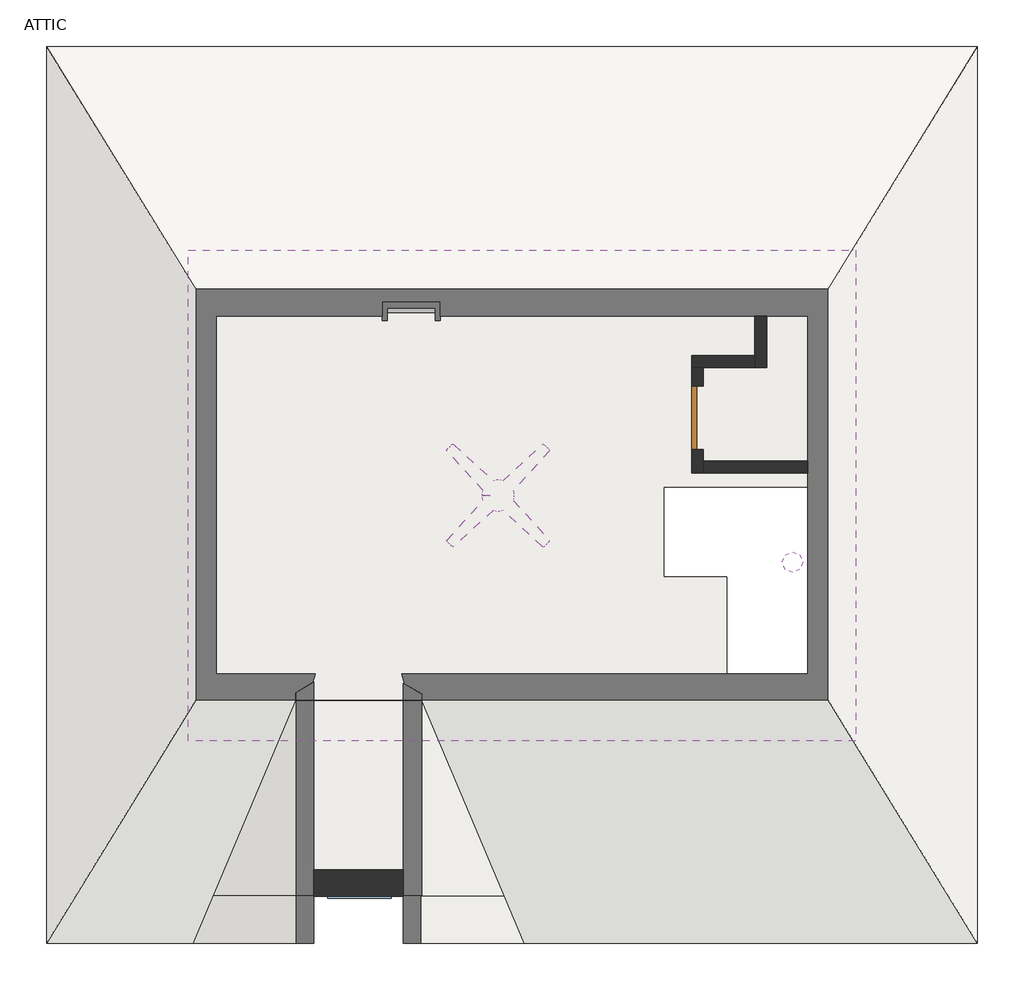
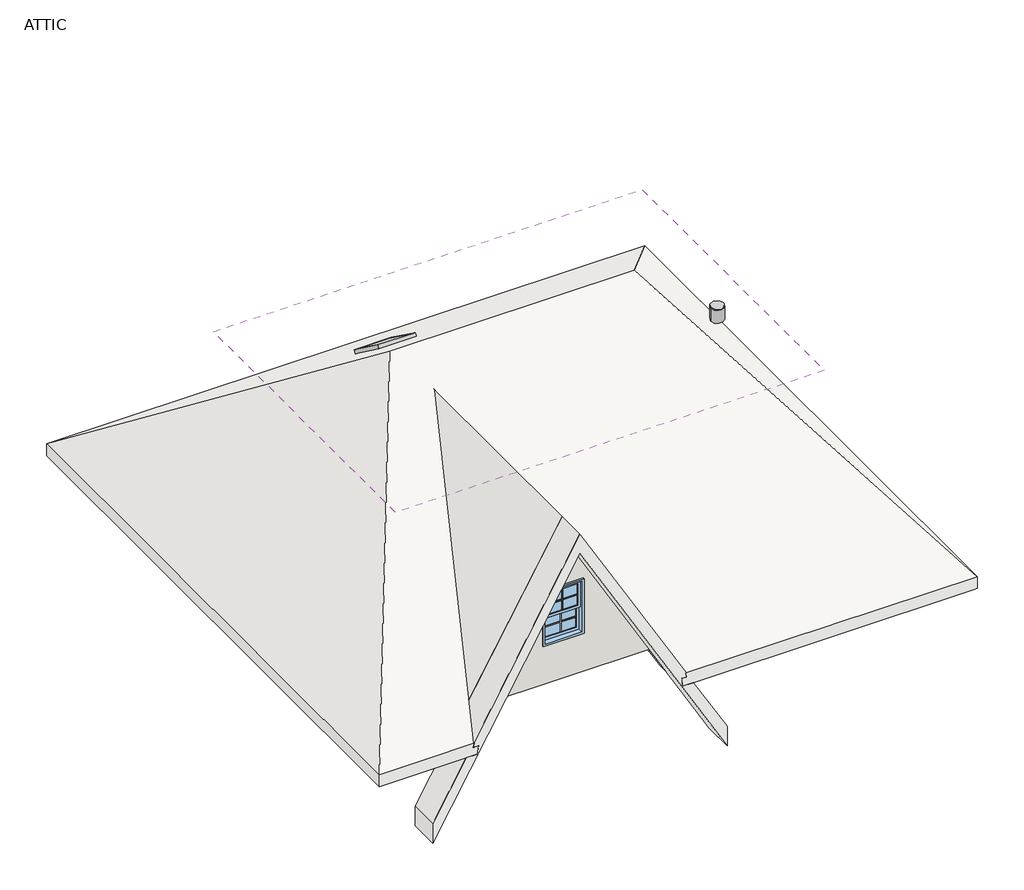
# One storey: 15 walls, 3 proxies, 3 roofs, 2 doors, 2 light fixtures, 1 covering, 1 slab, 1 window.
"""IFC4 building model written with IfcOpenShell, lengths in millimetres."""

from ifc_helpers import new_model, si_unit, point, frame, frame_2d, origin, place, context, project, spatial, polyline, circle_curve, trimmed, segment, composite_curve, outline, extrude, faceted_brep, transform, mapped, element, save
from components import metal_40af2144, muntin_pattern_2x2_muntin_pattern_2x2_3032a0ac, door_caf60923, door_30803731, ceiling_fan_4_278a9ec8, light_fixture_643521e1, window_8db50ffd

model = new_model("IFC4")

# Units and contexts
model_context = context("Model", 3, world=origin())
ifc_project = project(units=[si_unit("LENGTHUNIT", "METRE", prefix="MILLI")], contexts=[model_context])

# Site, building, storey
site = spatial("IfcSite", under=ifc_project)
building = spatial("IfcBuilding", under=site)
storey = spatial("IfcBuildingStorey", under=building, Name="ATTIC", Elevation=5638.8)

# Proxies
placement = place(None, origin())
metal_shape = metal_40af2144(model_context)
element("IfcBuildingElementProxy", 1, Name="Skylite : METAL", ObjectType="Skylite : METAL", at=placement, inside=storey, context=model_context, shape_type="MappedRepresentation", body=[
    mapped(metal_shape, transform((-3009.371808, 1674.1036491, 3767.449627), x_axis=(1.0, 0.0, 0.0), y_axis=(0.0, 0.8072273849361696, -0.5902405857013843), z_axis=(0.0, 0.5902405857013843, 0.8072273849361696))),
])
muntin_pattern_2x2_muntin_pattern_2x2_shape = muntin_pattern_2x2_muntin_pattern_2x2_3032a0ac(model_context)
element("IfcBuildingElementProxy", 2, Name="Muntin Pattern_2x2 : Muntin Pattern_2x2", ObjectType="Muntin Pattern_2x2 : Muntin Pattern_2x2", at=placement, inside=storey, context=model_context, shape_type="MappedRepresentation", body=[
    mapped(muntin_pattern_2x2_muntin_pattern_2x2_shape, transform((-3506.4, -1295.9315521, 6397.625), x_axis=(-1.0, 0.0, 0.0), y_axis=(0.0, -1.0, 0.0), z_axis=(0.0, 0.0, 1.0))),
])
element("IfcBuildingElementProxy", 3, Name="Muntin Pattern_2x2 : Muntin Pattern_2x2", ObjectType="Muntin Pattern_2x2 : Muntin Pattern_2x2", at=placement, inside=storey, context=model_context, shape_type="MappedRepresentation", body=[
    mapped(muntin_pattern_2x2_muntin_pattern_2x2_shape, transform((-3506.4, -1251.4815521, 6019.8), x_axis=(-1.0, 0.0, 0.0), y_axis=(0.0, -1.0, 0.0), z_axis=(0.0, 0.0, 1.0))),
])

# Covering
element("IfcCovering", 4, ObjectType="1/2\" Ceiling", at=placement, inside=storey, context=model_context, shape_type="SweptSolid", body=[
    extrude(outline(polyline([(-5151.05, 4884.55), (1268.8, 4884.55), (1268.8, 162.5), (-5151.05, 162.5), (-5151.05, 4884.55)]), holes=[composite_curve([segment(trimmed(circle_curve(frame_2d((659.2, 1883.35)), 87.3), [point((746.5, 1883.35))], [point((571.9, 1883.35))], True, "CARTESIAN"), True, "CONTINUOUS"), segment(trimmed(circle_curve(frame_2d((659.2, 1883.35)), 87.3), [point((571.9, 1883.35))], [point((746.5, 1883.35))], True, "CARTESIAN"), True, "CONTINUOUS")], self_intersect=False)]), frame((0.0, 0.0, 7620.0), z_axis=(0.0, 0.0, 1.0), x_axis=(1.0, 0.0, 0.0)), (0.0, 0.0, 1.0), 12.7),
])

# Doors
door_shape = door_caf60923(model_context)
element("IfcDoor", 5, ObjectType="Planitar - Single Door_Flush Panel : 1'-6\" x 6'-8\"", at=placement, inside=storey, context=model_context, shape_type="MappedRepresentation", body=[
    mapped(door_shape, transform((-267.9, 418.5, 5638.8), x_axis=(0.0, -1.0, 0.0), y_axis=(1.0, 0.0, 0.0), z_axis=(0.0, 0.0, 1.0))),
])
door_2_shape = door_30803731(model_context)
element("IfcDoor", 6, ObjectType="Planitar - Single Door_Flush Panel : 2'-0\" x 6'-8\"", at=placement, inside=storey, context=model_context, shape_type="MappedRepresentation", body=[
    mapped(door_2_shape, transform((-255.2, 3274.0, 5638.8), x_axis=(0.0, -1.0, 0.0), y_axis=(1.0, 0.0, 0.0), z_axis=(0.0, 0.0, 1.0))),
])

# Light fixtures
ceiling_fan_4_shape = ceiling_fan_4_278a9ec8(model_context)
element("IfcLightFixture", 7, ObjectType="Ceiling Fan : 4'", at=placement, inside=storey, context=model_context, shape_type="MappedRepresentation", body=[
    mapped(ceiling_fan_4_shape, transform((-2172.9, 2524.7, 7620.0), x_axis=(1.0, 0.0, 0.0), y_axis=(0.0, -1.0, 0.0), z_axis=(0.0, 0.0, -1.0))),
])
light_fixture_shape = light_fixture_643521e1(model_context)
element("IfcLightFixture", 8, ObjectType="Recessed Pot Light : 8\" 2", at=placement, inside=storey, context=model_context, shape_type="MappedRepresentation", body=[
    mapped(light_fixture_shape, transform((659.2, 1883.35, 5181.6), x_axis=(1.0, 0.0, 0.0), y_axis=(0.0, 1.0, 0.0), z_axis=(0.0, 0.0, 1.0))),
])

# Roofs
element("IfcRoof", 9, ObjectType="Wood Rafter 184mm - Asphalt Shingles", at=placement, inside=storey, context=model_context, shape_type="Brep", body=[
    faceted_brep([(2396.6732303, 6845.3, 4941.5302575), (-250.6678483, 2530.475, 8096.5084987), (-3828.4321517, 2530.475, 8096.5084987), (-6475.7732303, 6845.3, 4941.5302575), (-3288.771808, 3727.5123582, 7221.2408299), (-2729.971808, 3727.5123582, 7221.2408299), (-2729.971808, 4342.6196255, 6771.4775036), (-3288.771808, 4342.6196255, 6771.4775036), (-6475.7732303, -1784.35, 4941.5302575), (2396.6732303, -1784.35, 4941.5302575), (-1814.5982264, -1784.35, 4941.5302575), (-1978.7973569, -1784.35, 4941.5302575), (-1990.4644278, -1721.9688479, 4987.1430408), (-1919.3884558, -1727.4054781, 4983.1678042), (-2088.3585474, -1327.15, 5275.8325877), (-2007.6077667, -1327.15, 5275.8325877), (-2007.2863077, -1327.15, 5275.8325877), (-2055.1086013, -1213.8687983, 5358.66323), (-2177.034574, -1310.141336, 5288.2692369), (-2206.9128474, -1310.141336, 5288.2692369), (-3514.7860527, 1798.8118989, 7561.5201356), (-4822.659258, -1310.141336, 5288.2692369), (-4934.0332553, -1310.141336, 5288.2692369), (-4941.2135581, -1327.15, 5275.8325877), (-5110.1836496, -1727.4054781, 4983.1678042), (-5027.9029422, -1721.1117931, 4987.7697149), (-5048.8940864, -1784.35, 4941.5302575), (-5215.5080228, -1784.35, 4941.5302575), (2437.2, 6845.3, 5130.3246453), (-6516.3, 6845.3, 5130.3246453), (-3868.9589214, 2530.475, 8285.3028866), (-210.1410786, 2530.475, 8285.3028866), (-2729.971808, 3817.4650235, 7344.2622833), (-3288.771808, 3817.4650235, 7344.2622833), (-3288.771808, 4432.5722908, 6894.498957), (-2729.971808, 4432.5722908, 6894.498957), (-6516.3, -1784.35, 5130.3246453), (2437.2, -1784.35, 5130.3246453), (-5106.5075321, -1784.35, 5130.3246453), (-5096.249077, -1784.35, 5130.3246453), (-4934.0332553, -1400.0940012, 5411.2906903), (-4822.659258, -1400.0940012, 5411.2906903), (-4791.9732047, -1327.15, 5464.6269755), (-4913.2853071, -1327.15, 5464.6269755), (-3514.7860527, 1985.6077944, 7886.8987385), (-2116.2867983, -1327.15, 5464.6269755), (-2116.6082574, -1327.15, 5464.6269755), (-2237.5989007, -1327.15, 5464.6269755), (-2206.9128474, -1400.0940012, 5411.2906903), (-2095.5388501, -1400.0940012, 5411.2906903), (-1933.3230284, -1784.35, 5130.3246453), (-1923.598717, -1784.35, 5130.3246453), (2437.2, 6845.3, 4941.5302575), (-6516.3, 6845.3, 4941.5302575), (-6516.3, -1784.35, 4941.5302575), (-5027.9029422, -1784.35, 5074.2558252), (-5110.1836496, -1784.35, 5061.0465177), (2437.2, -1784.35, 4941.5302575), (-1919.3884558, -1784.35, 5061.0465177), (-1990.4644278, -1784.35, 5072.4570221), (-2207.2569466, -1327.15, 5317.3918943), (-2262.7367658, -1198.0524593, 5413.4857601), (-2208.529394, -1327.15, 5319.595838), (-3514.7860527, 2022.4892217, 7886.8987385), (-2075.274675, -1327.15, 5393.5918943), (-2055.1086013, -1327.15, 5358.66323), (-3545.4688601, 1986.790881, 7833.7545572), (-4944.4675612, -1327.15, 5410.6177272), (-2095.5388501, -1327.15, 5311.5306996), (-2136.7445387, -1327.15, 5311.5306996), (-4817.4924304, -1327.15, 5337.3086013), (-3524.2301982, 1737.3518345, 7598.4564784), (-3542.3190121, 1779.4432006, 7629.787223), (-3520.84154, 1754.0053382, 7592.5871502), (-3514.7860527, 1755.0059573, 7621.430207), (-4822.659258, -1331.2692439, 5317.1642778), (-2206.9128474, -1330.5927686, 5316.2391137), (-4934.0332553, -1327.15, 5311.5306996)], [[[0, 1, 2, 3], [4, 5, 6, 7]], [[3, 2, 8]], [[1, 0, 9]], [[2, 1, 9, 10, 11, 12, 13, 14, 15, 16, 17, 18, 19, 20, 21, 22, 23, 24, 25, 26, 27, 8]], [[28, 29, 30, 31], [32, 33, 34, 35]], [[30, 29, 36]], [[28, 31, 37]], [[31, 30, 36, 38, 39, 40, 41, 42, 43, 44, 45, 46, 47, 48, 49, 50, 51, 37]], [[29, 28, 52, 0, 3, 53]], [[36, 29, 53, 54]], [[36, 54, 8, 27, 26, 55, 56, 39, 38]], [[57, 37, 51, 50, 58, 59, 11, 10, 9]], [[28, 37, 57, 52]], [[9, 0, 52, 57]], [[3, 8, 54, 53]], [[60, 61, 62]], [[63, 64, 45, 44]], [[65, 17, 16]], [[66, 63, 44, 43, 67]], [[65, 16, 15, 14, 68, 69]], [[64, 60, 62, 47, 46, 45]], [[67, 43, 42, 70]], [[71, 72, 73]], [[17, 65, 69, 18]], [[64, 63, 66, 72, 71, 74, 61, 60]], [[66, 67, 70, 73, 72]], [[21, 20, 74, 71, 73, 70, 42, 41, 75]], [[20, 19, 76, 48, 47, 62, 61, 74]], [[13, 58, 50, 49, 68, 14]], [[58, 13, 12, 59]], [[49, 48, 76, 19, 18, 69, 68]], [[40, 77, 22, 21, 75, 41]], [[24, 56, 55, 25]], [[22, 77, 40, 39, 56, 24, 23]], [[26, 25, 55]], [[12, 11, 59]], [[32, 5, 4, 33]], [[5, 32, 35, 6]], [[6, 35, 34, 7]], [[33, 4, 7, 34]]]),
])
element("IfcRoof", 10, ObjectType="Wood Rafter 184mm - Asphalt Shingles", at=placement, inside=storey, context=model_context, shape_type="Brep", body=[
    faceted_brep([(-3515.0531246, -1327.15, 7582.0045371), (-3515.0531246, -1784.35, 7582.0045371), (-5718.5031246, -1784.35, 3765.5171852), (-5718.5031246, -1327.15, 3765.5171852), (-4825.9118058, -1327.15, 5311.5306996), (-4822.659258, -1331.2692439, 5317.1642778), (-4820.9296094, -1327.15, 5320.1601171), (-2208.3584477, -1327.15, 5318.7429668), (-2206.9128474, -1330.5927686, 5316.2391137), (-2204.1944433, -1327.15, 5311.5306996), (-1311.6031246, -1327.15, 3765.5171852), (-1311.6031246, -1784.35, 3765.5171852), (-3515.0531246, -1784.35, 7886.8045371), (-3515.0531246, -1327.15, 7886.8045371), (-4913.4979918, -1327.15, 5464.6269755), (-5106.5075321, -1784.35, 5130.3246453), (-5718.5031246, -1327.15, 4070.3171852), (-5718.5031246, -1784.35, 4070.3171852), (-5215.5080228, -1784.35, 4941.5302575), (-5022.4984824, -1327.15, 5275.8325877), (-1923.598717, -1784.35, 5130.3246453), (-2116.6082574, -1327.15, 5464.6269755), (-1311.6031246, -1784.35, 4070.3171852), (-1311.6031246, -1327.15, 4070.3171852), (-2007.6077667, -1327.15, 5275.8325877), (-1814.5982264, -1784.35, 4941.5302575), (-4817.4924304, -1327.15, 5337.3086013), (-4791.9732047, -1327.15, 5464.6269755), (-4913.2853071, -1327.15, 5464.6269755), (-2237.5989007, -1327.15, 5464.6269755), (-2208.529394, -1327.15, 5319.595838), (-4941.2135581, -1327.15, 5275.8325877), (-4934.0332553, -1327.15, 5311.5306996), (-2136.7445387, -1327.15, 5311.5306996), (-2095.5388501, -1327.15, 5311.5306996), (-2088.3585474, -1327.15, 5275.8325877), (-1978.7973569, -1784.35, 4941.5302575), (-1990.4644278, -1784.35, 5072.4570221), (-1919.3884558, -1784.35, 5061.0465177), (-1933.3230284, -1784.35, 5130.3246453), (-5096.249077, -1784.35, 5130.3246453), (-5110.1836496, -1784.35, 5061.0465177), (-5027.9029422, -1784.35, 5074.2558252), (-5048.8940864, -1784.35, 4941.5302575), (-5027.9029422, -1721.1117931, 4987.7697149), (-5110.1836496, -1727.4054781, 4983.1678042), (-1990.4644278, -1721.9688479, 4987.1430408), (-1919.3884558, -1727.4054781, 4983.1678042), (-2095.5388501, -1400.0940012, 5411.2906903), (-2206.9128474, -1400.0940012, 5411.2906903), (-4934.0332553, -1400.0940012, 5411.2906903), (-4822.659258, -1400.0940012, 5411.2906903)], [[[0, 1, 2, 3, 4, 5, 6]], [[1, 0, 7, 8, 9, 10, 11]], [[12, 13, 14, 15]], [[16, 17, 18, 19]], [[13, 12, 20, 21]], [[22, 23, 24, 25]], [[17, 16, 3, 2]], [[23, 22, 11, 10]], [[0, 6, 26, 27, 28, 14, 13, 21, 29, 30, 7]], [[3, 16, 19, 31, 32, 4]], [[23, 10, 9, 33, 34, 35, 24]], [[2, 1, 11, 22, 25, 36, 37, 38, 39, 20, 12, 15, 40, 41, 42, 43, 18, 17]], [[44, 45, 31, 19, 18, 43]], [[46, 36, 25, 24, 35, 47]], [[48, 49, 29, 21, 20, 39]], [[50, 40, 15, 14, 28, 27, 51]], [[51, 27, 26, 6, 5]], [[29, 49, 8, 7, 30]], [[48, 39, 38, 47, 35, 34]], [[46, 47, 38, 37]], [[49, 48, 34, 33, 9, 8]], [[50, 51, 5, 4, 32]], [[45, 44, 42, 41]], [[40, 50, 32, 31, 45, 41]], [[44, 43, 42]], [[36, 46, 37]]]),
])
element("IfcRoof", 11, ObjectType="Wood Rafter 184mm - Asphalt Shingles", at=placement, inside=storey, context=model_context, shape_type="Brep", body=[
    faceted_brep([(-1952.6860527, -1327.15, 4876.462172), (-2187.0908729, -1327.15, 5282.46323), (-2187.0908729, -1099.2292025, 5282.46323), (-2155.6804741, -1162.05, 5228.0588235), (-1952.6860527, -1162.05, 4876.462172), (-2055.1086013, -1327.15, 5358.66323), (-2007.2863077, -1327.15, 5275.8325877), (-1952.6860527, -1327.15, 5181.262172), (-1952.6860527, -1162.05, 5181.262172), (-2023.6982026, -1162.05, 5304.2588235), (-2055.1086013, -1099.2292025, 5358.66323), (-2055.1086013, -1213.8687983, 5358.66323), (-2136.7445387, -1327.15, 5311.5306996)], [[[0, 1, 2, 3, 4]], [[5, 6, 7, 8, 9, 10, 11]], [[7, 0, 4, 8]], [[0, 7, 6, 5, 12, 1]], [[1, 12, 5, 11, 10, 2]], [[3, 9, 8, 4]], [[9, 3, 2, 10]]]),
    faceted_brep([(-2207.2569466, -1327.15, 5317.3918943), (-2208.529394, -1327.15, 5319.595838), (-3514.7860527, -1327.15, 7582.0987385), (-3514.7860527, 1715.3759886, 7582.0987385), (-2262.7367658, -1198.0524593, 5413.4857601), (-4812.4852896, -1327.15, 5334.4177272), (-3514.7860527, 1746.8332347, 7582.0987385), (-3514.7860527, 2022.4892217, 7886.8987385), (-3514.7860527, 1985.6077944, 7886.8987385), (-3514.7860527, -1327.15, 7886.8987385), (-2116.2867983, -1327.15, 5464.6269755), (-2075.274675, -1327.15, 5393.5918943), (-3545.4688601, 1986.790881, 7833.7545572), (-4944.4675612, -1327.15, 5410.6177272), (-4913.2853071, -1327.15, 5464.6269755), (-4817.4924304, -1327.15, 5337.3086013), (-3520.84154, 1754.0053382, 7592.5871502), (-3542.3190121, 1779.4432006, 7629.787223), (-3524.2301982, 1737.3518345, 7598.4564784)], [[[0, 1, 2, 3, 4]], [[3, 2, 5, 6]], [[7, 8, 9, 10, 11]], [[9, 8, 7, 12, 13, 14]], [[2, 1, 0, 11, 10, 9, 14, 13, 15, 5]], [[3, 6, 16, 17, 18]], [[0, 4, 3, 18, 17, 12, 7, 11]], [[6, 5, 15, 13, 12, 17, 16]]]),
])

# Slab
element("IfcSlab", 12, ObjectType="Ledge - 2\"", at=placement, inside=storey, context=model_context, shape_type="SweptSolid", body=[
    extrude(outline(polyline([(-1785.55, 4884.55), (-1785.55, 5102.8), (1776.8, 5102.8), (1776.8, 2604.9), (-578.8083744, 2604.9), (-578.8083744, 1741.3), (23.9, 1741.3), (23.9, 797.5), (-325.05, 797.5), (-325.05, 162.5), (-2738.05, 162.5), (-2738.05, -1076.8565521), (-4274.75, -1076.8565521), (-4274.75, 141.1), (-5151.05, 141.1), (-5151.05, 4884.55), (-1785.55, 4884.55)])), frame((0.0, 0.0, 5588.0), z_axis=(0.0, 0.0, 1.0), x_axis=(1.0, 0.0, 0.0)), (0.0, 0.0, 1.0), 50.8),
])

# Walls
element("IfcWall", 13, ObjectType="Planitar - Generic 10\"", at=placement, inside=storey, context=model_context, shape_type="SweptSolid", body=[
    extrude(outline(polyline([(5334.0, -4812.9391492), (5334.0, -2217.1670999), (7582.0045371, -3515.0531246), (5334.0, -4812.9391492)]), holes=[polyline([(6807.2, -3201.6), (5943.6, -3201.6), (5943.6, -3811.2), (6807.2, -3811.2), (6807.2, -3201.6)])]), frame((0.0, -1330.8565521, 0.0), z_axis=(0.0, 1.0, 0.0), x_axis=(0.0, 0.0, 1.0)), (0.0, 0.0, 1.0), 254.0),
])
element("IfcWall", 14, ObjectType="Planitar - Generic 6 1/2\"", at=placement, inside=storey, context=model_context, shape_type="Brep", body=[
    faceted_brep([(-4274.75, 141.1, 5638.8), (-4274.75, 141.1, 6496.3144017), (-4274.75, -475.4545868, 6047.7054517), (-4274.75, -1076.8565521, 6047.7054517), (-4274.75, -1076.8565521, 5638.8), (-4439.85, 141.1, 5638.8), (-4439.85, -24.0, 5638.8), (-4439.85, -1076.8565521, 5638.8), (-4439.85, -1076.8565521, 6047.7054517), (-4439.85, -475.4545868, 6047.7054517), (-4439.85, 141.1, 6496.3144017), (-4439.85, 141.1, 6349.40957)], [[[0, 1, 2, 3, 4]], [[5, 6, 7, 8, 9, 10, 11]], [[1, 0, 5, 11, 10]], [[0, 4, 7, 6, 5]], [[2, 1, 10, 9]], [[3, 2, 9, 8]], [[3, 8, 7, 4]]]),
])
element("IfcWall", 15, ObjectType="Planitar - Generic 6 1/2\"", at=placement, inside=storey, context=model_context, shape_type="Brep", body=[
    faceted_brep([(-2572.95, 162.5, 5638.8), (-2572.95, 162.5, 6365.0571419), (-2572.95, 162.5, 6499.1754377), (-2572.95, -461.4301253, 6045.2), (-2572.95, -1076.8565521, 6045.2), (-2572.95, -1076.8565521, 5638.8), (-2572.95, -1033.7805585, 5638.8), (-2572.95, -2.6, 5638.8), (-2738.05, 162.5, 5638.8), (-2738.05, -1033.7805585, 5638.8), (-2738.05, -1076.8565521, 5638.8), (-2738.05, -1076.8565521, 6045.2), (-2738.05, -461.4301253, 6045.2), (-2738.05, 162.5, 6499.1754377)], [[[0, 1, 2, 3, 4, 5, 6, 7]], [[8, 9, 10, 11, 12, 13]], [[2, 1, 0, 8, 13]], [[0, 7, 6, 9, 8]], [[3, 2, 13, 12]], [[4, 3, 12, 11]], [[6, 5, 10, 9]], [[5, 4, 11, 10]]]),
])
element("IfcWall", 16, ObjectType="Planitar - Generic 6 1/2\"", at=placement, inside=storey, context=model_context, shape_type="Brep", body=[
    faceted_brep([(-2572.95, -2.6, 5638.8), (-210.75, -2.6, 5638.8), (-210.75, -2.6, 6244.336856), (-2572.95, -2.6, 6244.336856), (-2572.95, 162.5, 5638.8), (-2572.95, 162.5, 6365.0571419), (-325.05, 162.5, 6365.0571419), (-210.75, 162.5, 6365.0571419), (-210.75, 162.5, 5638.8), (-325.05, 162.5, 5638.8)], [[[0, 1, 2, 3]], [[4, 5, 6, 7, 8, 9]], [[1, 0, 4, 9, 8]], [[0, 3, 5, 4]], [[2, 1, 8, 7]], [[3, 2, 7, 6, 5]]]),
])
element("IfcWall", 17, ObjectType="Planitar - Generic 4 1/2\"", at=placement, inside=storey, context=model_context, shape_type="Brep", body=[
    faceted_brep([(-210.75, 162.5, 6365.0571419), (-210.75, 162.5, 5638.8), (-210.75, 189.9, 5638.8), (-210.75, 189.9, 6385.0918834), (-325.05, 162.5, 5638.8), (-325.05, 162.5, 6365.0571419), (-325.05, 189.9, 6385.0918834), (-325.05, 189.9, 5638.8)], [[[0, 1, 2, 3]], [[4, 5, 6, 7]], [[1, 4, 7, 2]], [[1, 0, 5, 4]], [[3, 2, 7, 6]], [[5, 0, 3, 6]]]),
    faceted_brep([(-210.75, 797.5, 5638.8), (-210.75, 797.5, 6829.3659338), (-210.75, 683.2, 6745.7903512), (-210.75, 211.3828024, 6400.8), (-210.75, 647.1, 6400.8), (-210.75, 647.1, 5638.8), (-325.05, 797.5, 6829.3659338), (-325.05, 797.5, 5638.8), (-325.05, 647.1, 5638.8), (-325.05, 647.1, 6400.8), (-325.05, 211.3828024, 6400.8)], [[[0, 1, 2, 3, 4, 5]], [[6, 7, 8, 9, 10]], [[7, 0, 5, 8]], [[1, 0, 7, 6]], [[4, 9, 8, 5]], [[9, 4, 3, 10]], [[1, 6, 10, 3, 2]]]),
])
element("IfcWall", 18, ObjectType="Planitar - Generic 8\"", at=placement, inside=storey, context=model_context, shape_type="Brep", body=[
    faceted_brep([(1776.8, 5267.9, 5638.8), (1776.8, 5102.8, 5638.8), (1776.8, 2854.9, 5638.8), (1776.8, 2740.6, 5638.8), (1776.8, 797.5, 5638.8), (1776.8, 797.5, 5680.2664067), (1776.8, 2740.6, 5680.2664067), (1776.8, 2854.9, 5680.2664067), (1776.8, 5102.8, 5680.2664067), (1776.8, 5267.9, 5680.2664067), (1811.5944465, 5267.9, 5638.8), (1811.5944465, 797.5, 5638.8)], [[[0, 1, 2, 3, 4, 5, 6, 7, 8, 9]], [[4, 3, 2, 1, 0, 10, 11]], [[0, 9, 10]], [[9, 8, 7, 6, 5, 11, 10]], [[5, 4, 11]]]),
])
element("IfcWall", 19, ObjectType="Planitar - Generic 6 1/2\"", at=placement, inside=storey, context=model_context, shape_type="Brep", body=[
    faceted_brep([(1776.8, 5267.9, 5638.8), (-1785.55, 5267.9, 5638.8), (-1785.55, 5267.9, 6094.9171683), (1428.8666988, 5267.9, 6094.9171683), (1776.8, 5267.9, 5680.2664067), (1776.8, 5102.8, 5638.8), (1776.8, 5102.8, 5680.2664067), (1327.5703514, 5102.8, 6215.6374542), (411.55, 5102.8, 6215.6374542), (297.25, 5102.8, 6215.6374542), (-1785.55, 5102.8, 6215.6374542), (-1785.55, 5102.8, 5638.8), (297.25, 5102.8, 5638.8), (411.55, 5102.8, 5638.8)], [[[0, 1, 2, 3, 4]], [[5, 6, 7, 8, 9, 10, 11, 12, 13]], [[1, 0, 5, 13, 12, 11]], [[0, 4, 6, 5]], [[2, 1, 11, 10]], [[4, 3, 7, 6]], [[3, 2, 10, 9, 8, 7]]]),
])
element("IfcWall", 20, ObjectType="Planitar - Generic 6 1/2\"", at=placement, inside=storey, context=model_context, shape_type="Brep", body=[
    faceted_brep([(-4439.85, 141.1, 5638.8), (-5151.05, 141.1, 5638.8), (-5316.15, 141.1, 5638.8), (-5316.15, 141.1, 6323.5154083), (-5294.4222185, 141.1, 6349.40957), (-5151.05, 141.1, 6349.40957), (-4439.85, 141.1, 6349.40957), (-4439.85, -24.0, 5638.8), (-4439.85, -24.0, 6228.6892841), (-5316.15, -24.0, 6228.6892841), (-5316.15, -24.0, 5638.8), (-5316.15, 105.6865145, 6323.5154083)], [[[0, 1, 2, 3, 4, 5, 6]], [[7, 8, 9, 10]], [[2, 1, 0, 7, 10]], [[0, 6, 8, 7]], [[3, 2, 10, 9, 11]], [[6, 5, 4, 11, 9, 8]], [[4, 3, 11]]]),
])
element("IfcWall", 21, ObjectType="Planitar - Generic 6 1/2\"", at=placement, inside=storey, context=model_context, shape_type="Brep", body=[
    faceted_brep([(-5151.05, 141.1, 5638.8), (-5151.05, 4884.55, 5638.8), (-5151.05, 5049.65, 5638.8), (-5151.05, 5049.65, 6254.5004657), (-5151.05, 4884.55, 6375.2207516), (-5151.05, 4686.1717492, 6520.2739264), (-5151.05, 374.7782508, 6520.2739264), (-5151.05, 141.1, 6349.40957), (-5316.15, 141.1, 5638.8), (-5316.15, 141.1, 6323.5154083), (-5316.15, 4955.2634855, 6323.5154083), (-5316.15, 5049.65, 6254.5004657), (-5316.15, 5049.65, 5638.8), (-5294.4222185, 141.1, 6349.40957)], [[[0, 1, 2, 3, 4, 5, 6, 7]], [[8, 9, 10, 11, 12]], [[2, 1, 0, 8, 12]], [[0, 7, 13, 9, 8]], [[3, 2, 12, 11]], [[7, 6, 13]], [[6, 5, 10, 9, 13]], [[5, 4, 3, 11, 10]]]),
])
element("IfcWall", 22, ObjectType="Planitar - Generic 6 1/2\"", at=placement, inside=storey, context=model_context, shape_type="SweptSolid", body=[
    extrude(outline(polyline([(4884.55, 5638.8), (4884.55, 6375.2207516), (5049.65, 6254.5004657), (5049.65, 5638.8), (4884.55, 5638.8)])), frame((-5151.05, 0.0, 0.0), z_axis=(1.0, 0.0, 0.0), x_axis=(0.0, 1.0, 0.0)), (0.0, 0.0, 1.0), 3200.4),
])
element("IfcWall", 23, ObjectType="Planitar - Generic 6 1/2\"", at=placement, inside=storey, context=model_context, shape_type="Brep", body=[
    faceted_brep([(-1785.55, 4884.55, 5638.8), (-1785.55, 5102.8, 5638.8), (-1785.55, 5267.9, 5638.8), (-1785.55, 5267.9, 6094.9171683), (-1785.55, 5102.8, 6215.6374542), (-1785.55, 4884.55, 6375.2207516), (-1950.65, 4884.55, 5638.8), (-1950.65, 4884.55, 6375.2207516), (-1950.65, 5049.65, 6254.5004657), (-1950.65, 5267.9, 6094.9171683), (-1950.65, 5267.9, 5638.8), (-1950.65, 5049.65, 5638.8)], [[[0, 1, 2, 3, 4, 5]], [[6, 7, 8, 9, 10, 11]], [[2, 1, 0, 6, 11, 10]], [[3, 2, 10, 9]], [[5, 4, 3, 9, 8, 7]], [[0, 5, 7, 6]]]),
])
element("IfcWall", 24, ObjectType="Planitar - Generic 4 1/2\"", at=placement, inside=storey, context=model_context, shape_type="Brep", body=[
    faceted_brep([(297.25, 5102.8, 5638.8), (297.25, 3870.9, 5638.8), (297.25, 3756.6, 5638.8), (297.25, 3756.6, 7199.9720932), (297.25, 3870.9, 7116.3965106), (297.25, 5102.8, 6215.6374542), (411.55, 5102.8, 5638.8), (411.55, 5102.8, 6215.6374542), (411.55, 3756.6, 7199.9720932), (411.55, 3756.6, 5638.8)], [[[0, 1, 2, 3, 4, 5]], [[6, 7, 8, 9]], [[2, 1, 0, 6, 9]], [[0, 5, 7, 6]], [[3, 2, 9, 8]], [[5, 4, 3, 8, 7]]]),
])
element("IfcWall", 25, ObjectType="Planitar - Generic 4 1/2\"", at=placement, inside=storey, context=model_context, shape_type="Brep", body=[
    faceted_brep([(297.25, 3870.9, 5638.8), (-312.35, 3870.9, 5638.8), (-312.35, 3870.9, 7116.3965106), (297.25, 3870.9, 7116.3965106), (297.25, 3756.6, 5638.8), (297.25, 3756.6, 7199.9720932), (-198.05, 3756.6, 7199.9720932), (-312.35, 3756.6, 7199.9720932), (-312.35, 3756.6, 5638.8), (-198.05, 3756.6, 5638.8)], [[[0, 1, 2, 3]], [[4, 5, 6, 7, 8, 9]], [[1, 0, 4, 9, 8]], [[0, 3, 5, 4]], [[2, 1, 8, 7]], [[3, 2, 7, 6, 5]]]),
])
element("IfcWall", 26, ObjectType="Planitar - Generic 4 1/2\"", at=placement, inside=storey, context=model_context, shape_type="Brep", body=[
    faceted_brep([(-312.35, 2969.2, 7162.8), (-312.35, 2969.2, 5638.8), (-312.35, 2740.6, 5638.8), (-312.35, 2740.6, 7942.8661603), (-312.35, 3756.6, 7199.9720932), (-312.35, 3756.6, 5638.8), (-312.35, 3578.8, 5638.8), (-312.35, 3578.8, 7162.8), (-198.05, 2740.6, 5638.8), (-198.05, 2854.9, 5638.8), (-198.05, 2969.2, 5638.8), (-198.05, 2969.2, 7162.8), (-198.05, 3578.8, 7162.8), (-198.05, 3578.8, 5638.8), (-198.05, 3756.6, 5638.8), (-198.05, 3756.6, 7199.9720932), (-198.05, 2854.9, 7859.2905777), (-198.05, 2740.6, 7942.8661603)], [[[0, 1, 2, 3, 4, 5, 6, 7]], [[8, 9, 10, 11, 12, 13, 14, 15, 16, 17]], [[6, 5, 14, 13]], [[2, 1, 10, 9, 8]], [[5, 4, 15, 14]], [[3, 2, 8, 17]], [[11, 10, 1, 0]], [[12, 11, 0, 7]], [[13, 12, 7, 6]], [[4, 3, 17, 16, 15]]]),
])
element("IfcWall", 27, ObjectType="Planitar - Generic 4 1/2\"", at=placement, inside=storey, context=model_context, shape_type="Brep", body=[
    faceted_brep([(-198.05, 2740.6, 5638.8), (1776.8, 2740.6, 5638.8), (1776.8, 2740.6, 5680.2664067), (-121.7466188, 2740.6, 7942.8661603), (-198.05, 2740.6, 7942.8661603), (-198.05, 2854.9, 5638.8), (-198.05, 2854.9, 7859.2905777), (-51.6183783, 2854.9, 7859.2905777), (1776.8, 2854.9, 5680.2664067), (1776.8, 2854.9, 5638.8)], [[[0, 1, 2, 3, 4]], [[5, 6, 7, 8, 9]], [[1, 0, 5, 9]], [[0, 4, 6, 5]], [[2, 1, 9, 8]], [[4, 3, 7, 6]], [[3, 2, 8, 7]]]),
])

# Window
window_shape = window_8db50ffd(model_context)
element("IfcWindow", 28, ObjectType="Planitar-Double-Hung-Single : 48\" x 42\"", at=placement, inside=storey, context=model_context, shape_type="MappedRepresentation", body=[
    mapped(window_shape, transform((-3506.4, -1203.8565521, 5029.2), x_axis=(-1.0, 0.0, 0.0), y_axis=(0.0, -1.0, 0.0), z_axis=(0.0, 0.0, 1.0))),
])

save(model, "model.ifc")
